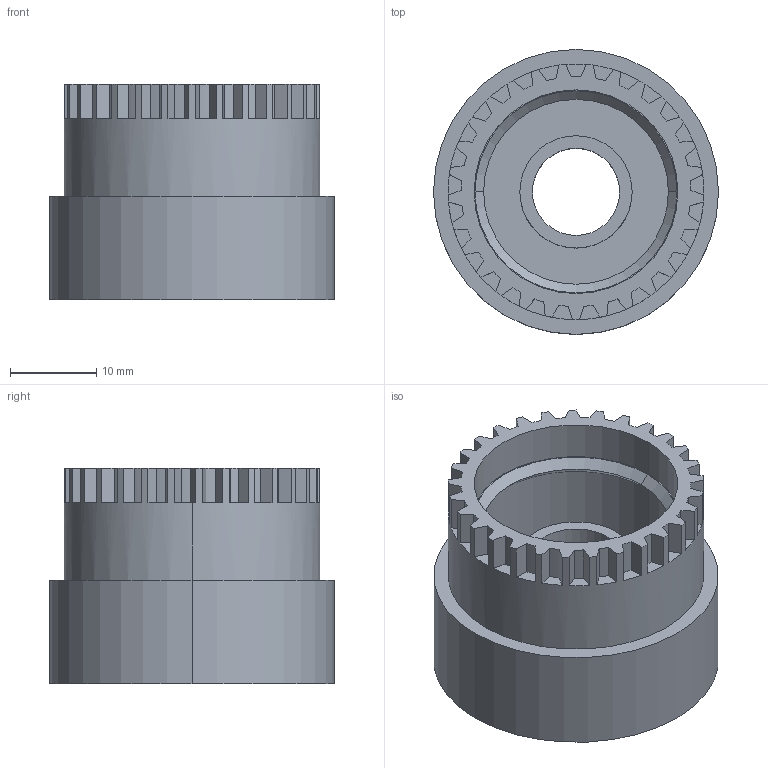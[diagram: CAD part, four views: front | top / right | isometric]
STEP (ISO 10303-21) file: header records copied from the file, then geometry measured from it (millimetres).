
FILE_DESCRIPTION (( 'STEP AP214' ), '1' );
FILE_NAME ('Hinge A.STEP', '2025-10-25T21:56:51', ( '' ), ( '' ), 'SwSTEP 2.0', 'SolidWorks 2025', '' );
FILE_SCHEMA (( 'AUTOMOTIVE_DESIGN' ));
Length unit declared in the file: millimetre
Products named in the file (1): Hinge A
Bounding box: 33 x 33 x 25 mm (x, y, z)
Volume: 9453.2 mm3; surface area: 7001.2 mm2
Topology: 1 solids, 1 shells, 139 faces, 394 edges, 262 vertices
Faces by surface type: plane 94, cylinder 41, cone 4
Entity records: 4585 total; most frequent: DIRECTION 820, CARTESIAN_POINT 796, ORIENTED_EDGE 788, EDGE_CURVE 394, AXIS2_PLACEMENT_3D 286, VERTEX_POINT 262, VECTOR 248, LINE 248
